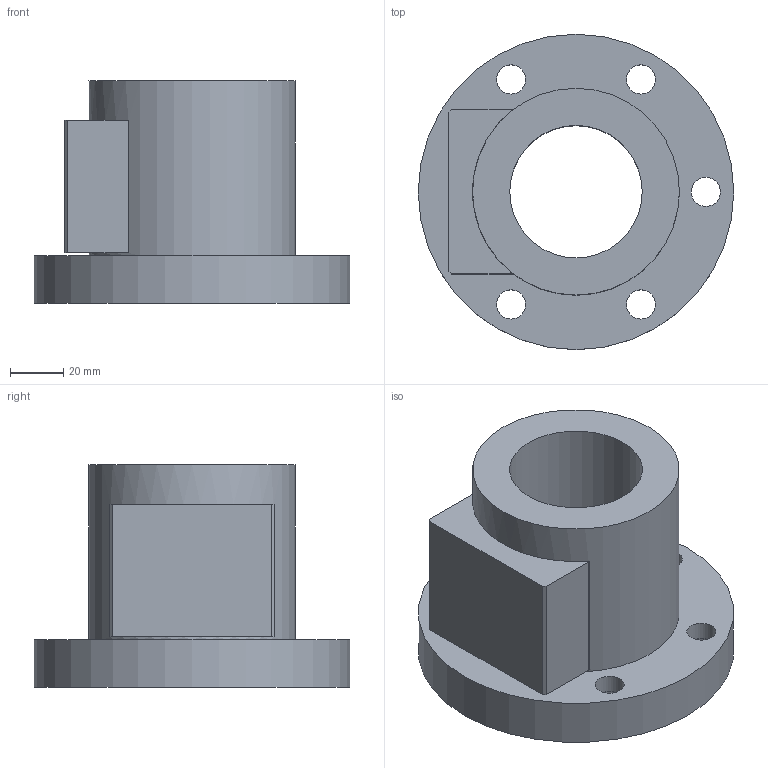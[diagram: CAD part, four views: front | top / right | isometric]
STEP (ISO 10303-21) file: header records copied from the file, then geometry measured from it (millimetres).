
FILE_DESCRIPTION(/* description */ (''),/* implementation_level */ '2;1');
FILE_NAME(/* name */ '50-10C1',/* time_stamp */ '2006-07-31T11:47:35+08:00',/* author */ (''),/* organization */ (''),/* preprocessor_version */ 'ST-DEVELOPER v9',/* originating_system */ 'UGS - NX 4.0',/* authorisation */ '');
FILE_SCHEMA (('CONFIG_CONTROL_DESIGN'));
Length unit declared in the file: millimetre
Products named in the file (1): 50-10C1
Bounding box: 119 x 119 x 84 mm (x, y, z)
Volume: 376271 mm3; surface area: 61311 mm2
Topology: 1 solids, 1 shells, 30 faces, 67 edges, 46 vertices
Faces by surface type: plane 17, cylinder 13
Full cylindrical faces by diameter (mm): 11 x5, 17.5 x5, 50 x1, 78 x1, 119 x1
Entity records: 860 total; most frequent: DIRECTION 140, CARTESIAN_POINT 123, ORIENTED_EDGE 100, EDGE_LOOP 62, AXIS2_PLACEMENT_3D 59, EDGE_CURVE 50, FACE_BOUND 45, VERTEX_POINT 42
